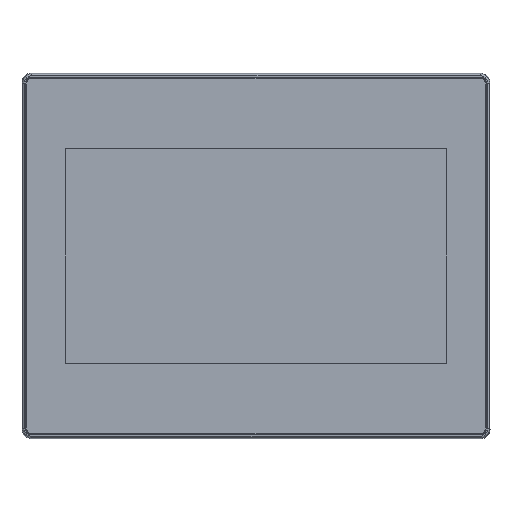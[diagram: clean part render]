
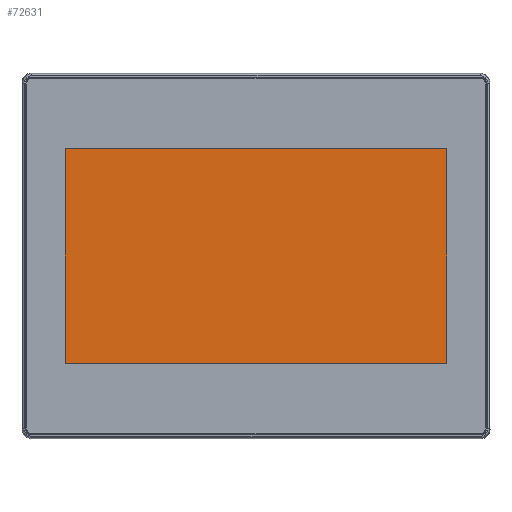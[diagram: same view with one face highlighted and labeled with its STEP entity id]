
A CAD part, front view. The second image highlights one B-rep face of the part: STEP entity #72631.
In plain terms, the highlighted planar face has unit normal (0, -1, 0).
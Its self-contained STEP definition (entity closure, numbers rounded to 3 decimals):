
#10102=DIRECTION('',(0.,0.,1.));
#10103=VECTOR('',#10102,125.28);
#10104=CARTESIAN_POINT('',(-111.36,0.5,-62.64));
#10105=LINE('',#10104,#10103);
#10106=DIRECTION('',(1.,0.,0.));
#10107=VECTOR('',#10106,222.72);
#10108=CARTESIAN_POINT('',(-111.36,0.5,62.64));
#10109=LINE('',#10108,#10107);
#10110=DIRECTION('',(0.,0.,-1.));
#10111=VECTOR('',#10110,125.28);
#10112=CARTESIAN_POINT('',(111.36,0.5,62.64));
#10113=LINE('',#10112,#10111);
#10114=DIRECTION('',(-1.,0.,0.));
#10115=VECTOR('',#10114,222.72);
#10116=CARTESIAN_POINT('',(111.36,0.5,-62.64));
#10117=LINE('',#10116,#10115);
#54139=CARTESIAN_POINT('',(-111.36,0.5,-62.64));
#54140=CARTESIAN_POINT('',(-111.36,0.5,62.64));
#54141=VERTEX_POINT('',#54139);
#54142=VERTEX_POINT('',#54140);
#54143=CARTESIAN_POINT('',(111.36,0.5,62.64));
#54144=VERTEX_POINT('',#54143);
#54145=CARTESIAN_POINT('',(111.36,0.5,-62.64));
#54146=VERTEX_POINT('',#54145);
#72617=CARTESIAN_POINT('',(0.,0.5,0.));
#72618=DIRECTION('',(0.,-1.,0.));
#72619=DIRECTION('',(1.,0.,0.));
#72620=AXIS2_PLACEMENT_3D('',#72617,#72618,#72619);
#72621=PLANE('',#72620);
#72622=ORIENTED_EDGE('',*,*,#72607,.T.);
#72624=ORIENTED_EDGE('',*,*,#72623,.T.);
#72626=ORIENTED_EDGE('',*,*,#72625,.T.);
#72628=ORIENTED_EDGE('',*,*,#72627,.T.);
#72629=EDGE_LOOP('',(#72622,#72624,#72626,#72628));
#72630=FACE_OUTER_BOUND('',#72629,.F.);
#72631=ADVANCED_FACE('',(#72630),#72621,.T.);
#72607=EDGE_CURVE('',#54141,#54142,#10105,.T.);
#72623=EDGE_CURVE('',#54142,#54144,#10109,.T.);
#72625=EDGE_CURVE('',#54144,#54146,#10113,.T.);
#72627=EDGE_CURVE('',#54146,#54141,#10117,.T.);
